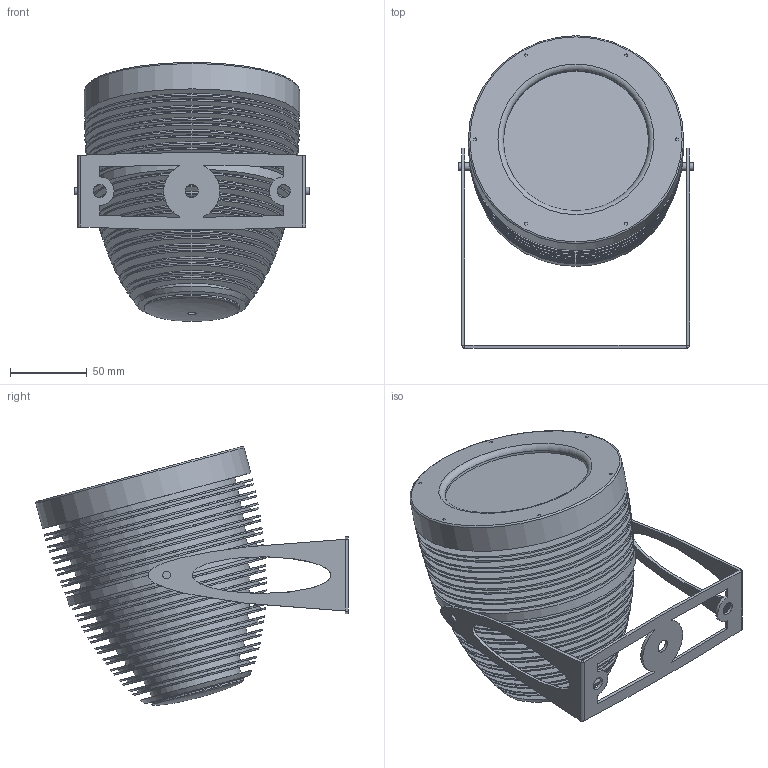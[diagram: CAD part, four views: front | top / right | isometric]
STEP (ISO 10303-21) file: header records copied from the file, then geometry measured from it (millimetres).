
FILE_DESCRIPTION(/* description */ (''),/* implementation_level */ '2;1');
FILE_NAME(/* name */ 'C:/Users/elena/OneDrive/Allegati di posta elettronica/Desktop/Pegaso brk p.step',/* time_stamp */ '2020-05-27T14:36:07+02:00',/* author */ (''),/* organization */ (''),/* preprocessor_version */ 'ST-DEVELOPER v18.1',/* originating_system */ 'Autodesk Translation Framework v9.3.0.1241',/* authorisation */ '');
FILE_SCHEMA (('AUTOMOTIVE_DESIGN { 1 0 10303 214 3 1 1 }'));
Length unit declared in the file: millimetre
Products named in the file (1): Pubblico
Bounding box: 152.65 x 202.98 x 168.27 mm (x, y, z)
Volume: 868214.4 mm3; surface area: 382057.5 mm2
Topology: 7 solids, 13 shells, 365 faces, 746 edges, 490 vertices
Faces by surface type: plane 170, cylinder 85, bspline 72, cone 29, torus 9
Full cylindrical faces by diameter (mm): 3 x6, 3.1 x6, 4 x2, 4.2 x2, 5 x2, 6 x1, 8.5 x3, 10 x1, 18 x1, 58.5 x2, 59 x1, 60 x1, 61.85 x1, 63.996 x1, 74.004 x1, 74.97 x1, 81.394 x1, 84.978 x1, 88 x1, 92.368 x1, 93.597 x1, 94.4 x1, 98.597 x1, 98.974 x1, 102.805 x1, 106.392 x1, 106.571 x1, 107 x1, 109.572 x1, 111.3 x1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
Entity records: 12231 total; most frequent: CARTESIAN_POINT 4348, DIRECTION 1671, ORIENTED_EDGE 1504, EDGE_CURVE 752, AXIS2_PLACEMENT_3D 697, VERTEX_POINT 496, EDGE_LOOP 480, FACE_OUTER_BOUND 365
